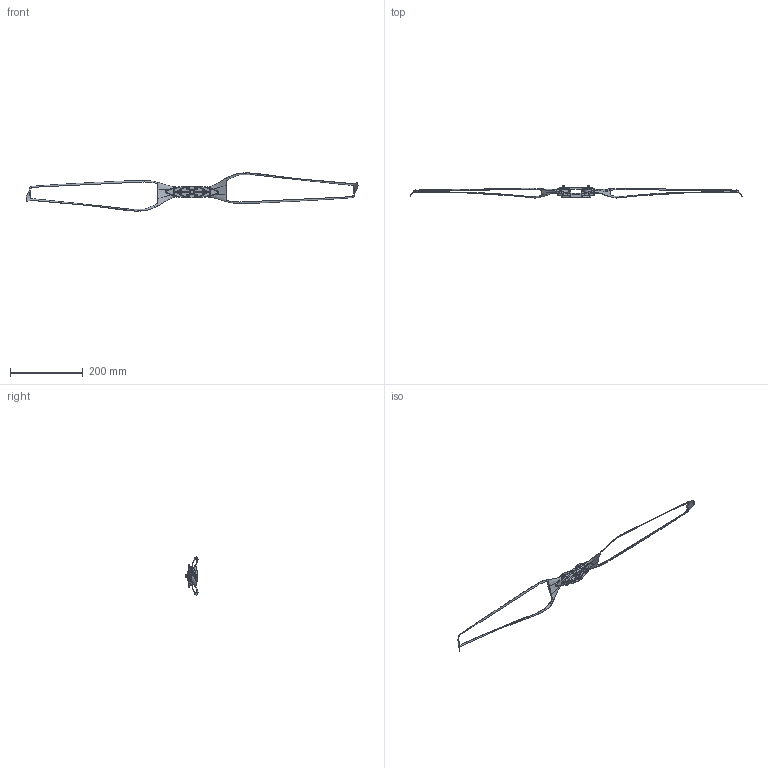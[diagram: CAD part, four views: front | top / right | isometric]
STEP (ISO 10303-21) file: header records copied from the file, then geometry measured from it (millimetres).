
FILE_DESCRIPTION (( 'STEP AP214' ), '1' );
FILE_NAME ('MF3628P-懫諾.STEP', '2025-02-11T03:59:51', ( '' ), ( '' ), 'SwSTEP 2.0', 'SolidWorks 2022', '' );
FILE_SCHEMA (( 'AUTOMOTIVE_DESIGN' ));
Length unit declared in the file: millimetre
Products named in the file (6): -A10桨夹上板-A; MF3628P-镂空; M4x25 弹垫螺丝; -A10桨夹下板-36-A; M4防松螺母; MF3628P-CCW
Assembly tree (8 placements, depth 2):
  MF3628P-镂空
    -A10桨夹下板-36-A
    MF3628P-CCW  x2
    -A10桨夹上板-A
    M4x25 弹垫螺丝  x2
    M4防松螺母  x2
Bounding box: 915.18 x 33.33 x 105.13 mm (x, y, z)
Volume: 70725.5 mm3; surface area: 54828.5 mm2
Topology: 10 solids, 10 shells, 1540 faces, 4015 edges, 2556 vertices
Faces by surface type: plane 485, cylinder 481, bspline 384, cone 122, torus 68
Entity records: 80837 total; most frequent: CARTESIAN_POINT 55791, ORIENTED_EDGE 5552, DIRECTION 4678, EDGE_CURVE 2776, VERTEX_POINT 1760, AXIS2_PLACEMENT_3D 1668, VECTOR 1342, LINE 1342
